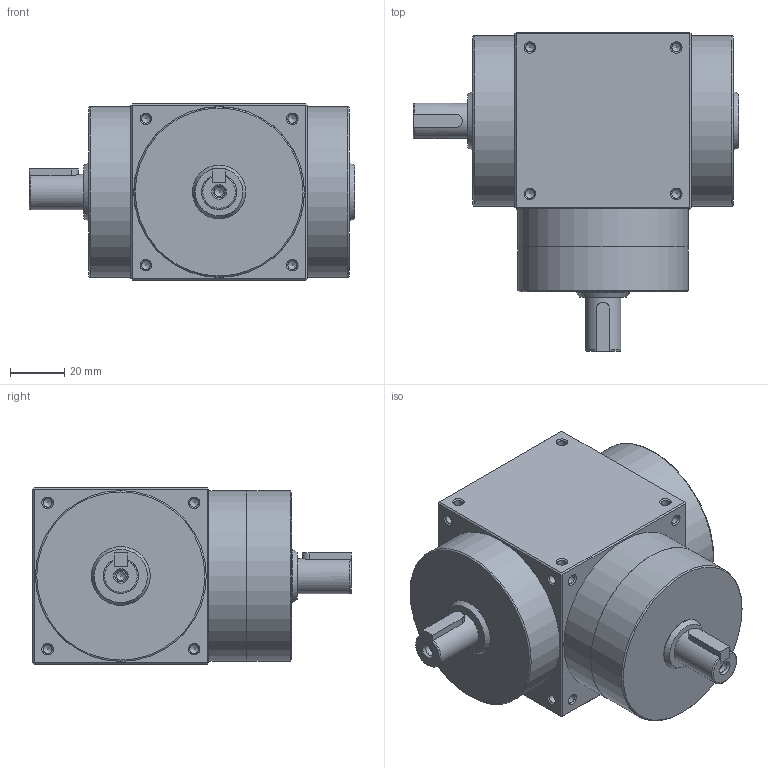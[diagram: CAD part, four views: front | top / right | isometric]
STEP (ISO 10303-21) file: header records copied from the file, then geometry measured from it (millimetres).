
FILE_DESCRIPTION((''),'2;1');
FILE_NAME('D:\유성\SBT 베벨기어박스\최종도면모음\3D\SBT065\홈페이지용\SBT065LS001K.stp','2014-05-20T09:07:48',('nagyu'),(''),'Autodesk Inventor 2013','Autodesk Inventor 2013','');
FILE_SCHEMA(('AUTOMOTIVE_DESIGN { 1 0 10303 214 1 1 1 1 }'));
Length unit declared in the file: millimetre
Products named in the file (1): SBT065LS001K_Shrinkwrap_1
Bounding box: 120 x 117.5 x 65 mm (x, y, z)
Volume: 471702.7 mm3; surface area: 41081.7 mm2
Topology: 1 solids, 1 shells, 174 faces, 489 edges, 295 vertices
Faces by surface type: cylinder 65, cone 61, plane 44, torus 4
Full cylindrical faces by diameter (mm): 3.242 x50, 4 x2, 4.3 x2, 13 x2, 19.7 x1, 21.7 x2, 62.9 x1, 63 x3
Entity records: 4458 total; most frequent: DIRECTION 846, CARTESIAN_POINT 763, ORIENTED_EDGE 584, AXIS2_PLACEMENT_3D 387, EDGE_LOOP 310, EDGE_CURVE 292, VERTEX_POINT 224, FACE_OUTER_BOUND 174
